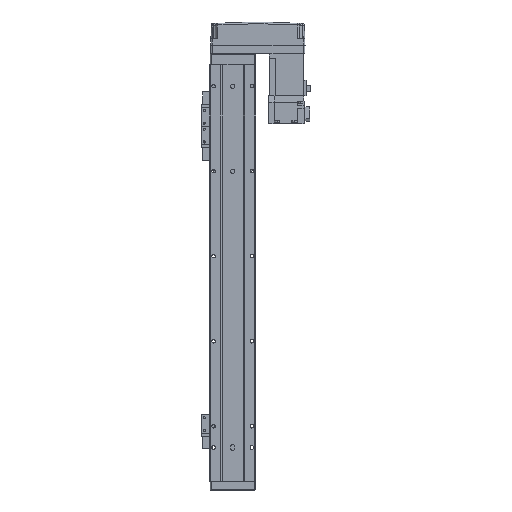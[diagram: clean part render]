
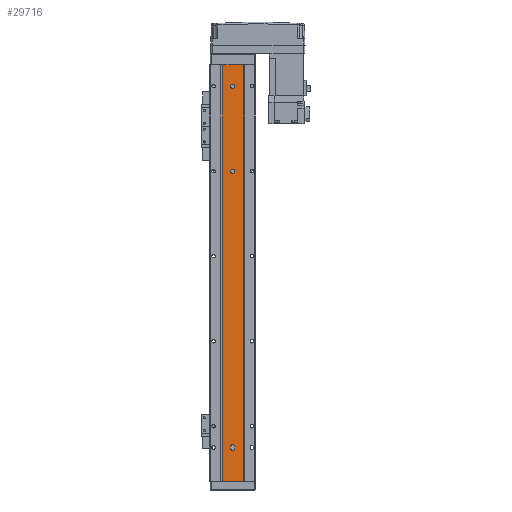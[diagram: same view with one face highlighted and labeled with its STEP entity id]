
A CAD part, front view. The second image highlights one B-rep face of the part: STEP entity #29716.
In plain terms, the highlighted planar face has unit normal (0, -1, 0).
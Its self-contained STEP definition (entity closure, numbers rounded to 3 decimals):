
#306 = CARTESIAN_POINT ( 'NONE',  ( 12.293, 1.5, -490. ) ) ;
#447 = EDGE_CURVE ( 'NONE', #5304, #4542, #9907, .T. ) ;
#493 = EDGE_CURVE ( 'NONE', #28275, #29629, #15350, .T. ) ;
#734 = DIRECTION ( 'NONE',  ( 0., -1., 0. ) ) ;
#1066 = ORIENTED_EDGE ( 'NONE', *, *, #33617, .F. ) ;
#1361 = DIRECTION ( 'NONE',  ( 0., 0., 1. ) ) ;
#1523 = EDGE_CURVE ( 'NONE', #3731, #8574, #34564, .T. ) ;
#1625 = CIRCLE ( 'NONE', #25692, 2.5 ) ;
#2004 = EDGE_LOOP ( 'NONE', ( #21054, #21711, #32743, #34108 ) ) ;
#3574 = CARTESIAN_POINT ( 'NONE',  ( -12.293, 1.5, 0. ) ) ;
#3640 = CIRCLE ( 'NONE', #19707, 2.5 ) ;
#3692 = DIRECTION ( 'NONE',  ( 0., -1., 0. ) ) ;
#3731 = VERTEX_POINT ( 'NONE', #31831 ) ;
#3884 = VECTOR ( 'NONE', #22744, 1000. ) ;
#4288 = LINE ( 'NONE', #14118, #3884 ) ;
#4336 = LINE ( 'NONE', #29325, #26834 ) ;
#4368 = FACE_BOUND ( 'NONE', #11169, .T. ) ;
#4410 = ORIENTED_EDGE ( 'NONE', *, *, #24556, .F. ) ;
#4488 = EDGE_CURVE ( 'NONE', #17713, #26928, #25792, .T. ) ;
#4542 = VERTEX_POINT ( 'NONE', #3574 ) ;
#4943 = CARTESIAN_POINT ( 'NONE',  ( -2.5, 1.5, -451. ) ) ;
#5257 = EDGE_CURVE ( 'NONE', #17776, #20009, #28416, .T. ) ;
#5304 = VERTEX_POINT ( 'NONE', #33078 ) ;
#5473 = CARTESIAN_POINT ( 'NONE',  ( -2.5, 1.5, -449. ) ) ;
#6102 = AXIS2_PLACEMENT_3D ( 'NONE', #20067, #23432, #32044 ) ;
#6123 = CARTESIAN_POINT ( 'NONE',  ( 0., 1.5, -125. ) ) ;
#6175 = FACE_BOUND ( 'NONE', #25872, .T. ) ;
#6417 = CARTESIAN_POINT ( 'NONE',  ( 0., 1.5, -451. ) ) ;
#7016 = DIRECTION ( 'NONE',  ( 1., 0., 0. ) ) ;
#7359 = EDGE_CURVE ( 'NONE', #4542, #20009, #17526, .T. ) ;
#7924 = CARTESIAN_POINT ( 'NONE',  ( 12.293, 1.5, 0. ) ) ;
#8574 = VERTEX_POINT ( 'NONE', #8921 ) ;
#8683 = LINE ( 'NONE', #33664, #30745 ) ;
#8841 = DIRECTION ( 'NONE',  ( 0., -1., 0. ) ) ;
#8921 = CARTESIAN_POINT ( 'NONE',  ( 2.5, 1.5, -25. ) ) ;
#9907 = LINE ( 'NONE', #12936, #16702 ) ;
#10199 = AXIS2_PLACEMENT_3D ( 'NONE', #26140, #32328, #35226 ) ;
#10253 = VECTOR ( 'NONE', #27888, 1000. ) ;
#11169 = EDGE_LOOP ( 'NONE', ( #29768, #24110 ) ) ;
#11730 = DIRECTION ( 'NONE',  ( 1., 0., 0. ) ) ;
#12806 = EDGE_CURVE ( 'NONE', #29629, #17713, #8683, .T. ) ;
#12936 = CARTESIAN_POINT ( 'NONE',  ( -12.293, 1.5, -490. ) ) ;
#13225 = VERTEX_POINT ( 'NONE', #18134 ) ;
#13372 = DIRECTION ( 'NONE',  ( 0., 0., -1. ) ) ;
#14118 = CARTESIAN_POINT ( 'NONE',  ( 2.5, 1.5, -490. ) ) ;
#14195 = CARTESIAN_POINT ( 'NONE',  ( 2.5, 1.5, -451. ) ) ;
#15127 = CARTESIAN_POINT ( 'NONE',  ( 2.5, 1.5, -125. ) ) ;
#15350 = CIRCLE ( 'NONE', #30253, 2.5 ) ;
#15480 = AXIS2_PLACEMENT_3D ( 'NONE', #6417, #8841, #29102 ) ;
#15485 = CARTESIAN_POINT ( 'NONE',  ( 0., 1.5, -25. ) ) ;
#15589 = VERTEX_POINT ( 'NONE', #15127 ) ;
#16702 = VECTOR ( 'NONE', #30183, 1000. ) ;
#16995 = FACE_OUTER_BOUND ( 'NONE', #2004, .T. ) ;
#17526 = LINE ( 'NONE', #22289, #10253 ) ;
#17713 = VERTEX_POINT ( 'NONE', #4943 ) ;
#17776 = VERTEX_POINT ( 'NONE', #306 ) ;
#18134 = CARTESIAN_POINT ( 'NONE',  ( -2.5, 1.5, -125. ) ) ;
#19707 = AXIS2_PLACEMENT_3D ( 'NONE', #6123, #734, #32563 ) ;
#20009 = VERTEX_POINT ( 'NONE', #7924 ) ;
#20067 = CARTESIAN_POINT ( 'NONE',  ( 12.293, 1.5, -490. ) ) ;
#20990 = DIRECTION ( 'NONE',  ( 0., -1., 0. ) ) ;
#21054 = ORIENTED_EDGE ( 'NONE', *, *, #7359, .F. ) ;
#21205 = EDGE_CURVE ( 'NONE', #15589, #13225, #3640, .T. ) ;
#21711 = ORIENTED_EDGE ( 'NONE', *, *, #447, .F. ) ;
#22289 = CARTESIAN_POINT ( 'NONE',  ( 12.293, 1.5, 0. ) ) ;
#22568 = ORIENTED_EDGE ( 'NONE', *, *, #1523, .F. ) ;
#22744 = DIRECTION ( 'NONE',  ( 0., 0., 1. ) ) ;
#23432 = DIRECTION ( 'NONE',  ( 0., -1., 0. ) ) ;
#23769 = ORIENTED_EDGE ( 'NONE', *, *, #12806, .F. ) ;
#24110 = ORIENTED_EDGE ( 'NONE', *, *, #32085, .F. ) ;
#24470 = CARTESIAN_POINT ( 'NONE',  ( 0., 1.5, -449. ) ) ;
#24556 = EDGE_CURVE ( 'NONE', #26928, #28275, #4288, .T. ) ;
#25228 = ORIENTED_EDGE ( 'NONE', *, *, #4488, .F. ) ;
#25692 = AXIS2_PLACEMENT_3D ( 'NONE', #15485, #3692, #35772 ) ;
#25792 = CIRCLE ( 'NONE', #15480, 2.5 ) ;
#25872 = EDGE_LOOP ( 'NONE', ( #25228, #23769, #32319, #4410 ) ) ;
#26140 = CARTESIAN_POINT ( 'NONE',  ( 0., 1.5, -125. ) ) ;
#26219 = EDGE_LOOP ( 'NONE', ( #1066, #22568 ) ) ;
#26834 = VECTOR ( 'NONE', #11730, 1000. ) ;
#26928 = VERTEX_POINT ( 'NONE', #14195 ) ;
#27020 = CARTESIAN_POINT ( 'NONE',  ( 0., 1.5, -25. ) ) ;
#27342 = CARTESIAN_POINT ( 'NONE',  ( 2.5, 1.5, -449. ) ) ;
#27414 = DIRECTION ( 'NONE',  ( 0., -1., 0. ) ) ;
#27888 = DIRECTION ( 'NONE',  ( 1., 0., 0. ) ) ;
#28275 = VERTEX_POINT ( 'NONE', #27342 ) ;
#28416 = LINE ( 'NONE', #32718, #37017 ) ;
#29102 = DIRECTION ( 'NONE',  ( 1., 0., 0. ) ) ;
#29325 = CARTESIAN_POINT ( 'NONE',  ( 12.293, 1.5, -490. ) ) ;
#29629 = VERTEX_POINT ( 'NONE', #5473 ) ;
#29716 = ADVANCED_FACE ( 'NONE', ( #6175, #4368, #35924, #16995 ), #32168, .T. ) ;
#29768 = ORIENTED_EDGE ( 'NONE', *, *, #21205, .F. ) ;
#29808 = AXIS2_PLACEMENT_3D ( 'NONE', #27020, #20990, #7016 ) ;
#30183 = DIRECTION ( 'NONE',  ( 0., 0., 1. ) ) ;
#30253 = AXIS2_PLACEMENT_3D ( 'NONE', #24470, #27414, #30307 ) ;
#30307 = DIRECTION ( 'NONE',  ( 1., 0., 0. ) ) ;
#30405 = EDGE_CURVE ( 'NONE', #5304, #17776, #4336, .T. ) ;
#30745 = VECTOR ( 'NONE', #13372, 1000. ) ;
#31831 = CARTESIAN_POINT ( 'NONE',  ( -2.5, 1.5, -25. ) ) ;
#32044 = DIRECTION ( 'NONE',  ( 1., 0., 0. ) ) ;
#32085 = EDGE_CURVE ( 'NONE', #13225, #15589, #33785, .T. ) ;
#32168 = PLANE ( 'NONE',  #6102 ) ;
#32319 = ORIENTED_EDGE ( 'NONE', *, *, #493, .F. ) ;
#32328 = DIRECTION ( 'NONE',  ( 0., -1., 0. ) ) ;
#32563 = DIRECTION ( 'NONE',  ( 1., 0., 0. ) ) ;
#32718 = CARTESIAN_POINT ( 'NONE',  ( 12.293, 1.5, -490. ) ) ;
#32743 = ORIENTED_EDGE ( 'NONE', *, *, #30405, .T. ) ;
#33078 = CARTESIAN_POINT ( 'NONE',  ( -12.293, 1.5, -490. ) ) ;
#33617 = EDGE_CURVE ( 'NONE', #8574, #3731, #1625, .T. ) ;
#33664 = CARTESIAN_POINT ( 'NONE',  ( -2.5, 1.5, -490. ) ) ;
#33785 = CIRCLE ( 'NONE', #10199, 2.5 ) ;
#34108 = ORIENTED_EDGE ( 'NONE', *, *, #5257, .T. ) ;
#34564 = CIRCLE ( 'NONE', #29808, 2.5 ) ;
#35226 = DIRECTION ( 'NONE',  ( 1., 0., 0. ) ) ;
#35772 = DIRECTION ( 'NONE',  ( 1., 0., 0. ) ) ;
#35924 = FACE_BOUND ( 'NONE', #26219, .T. ) ;
#37017 = VECTOR ( 'NONE', #1361, 1000. ) ;
